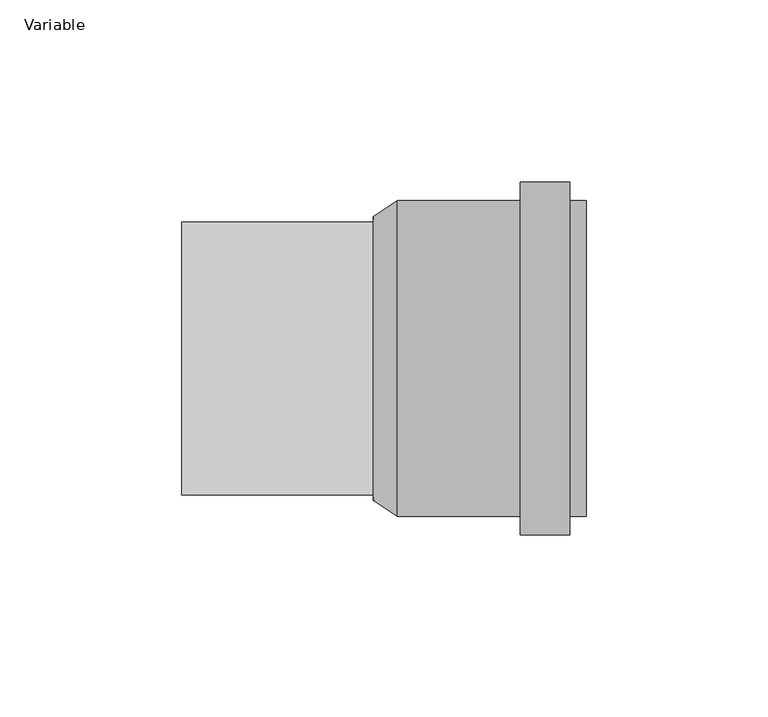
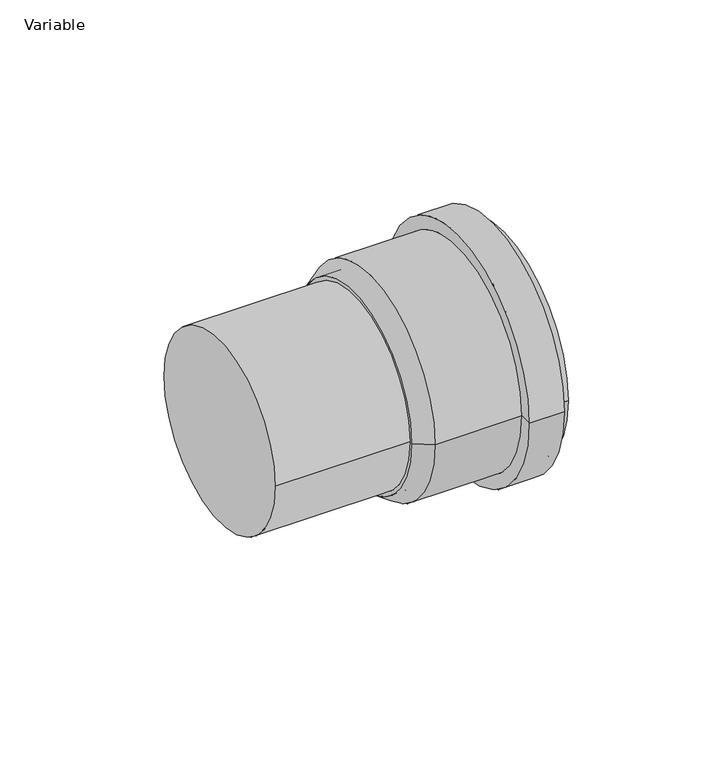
"""IFC4 building model written with IfcOpenShell, lengths in millimetres: pipe fitting geometry, AliaxisFR_Friaphon_AdaptorFriaphonPVC_FR : Variable."""

from ifc_helpers import new_model, si_unit, frame, origin, place, context, project, spatial, polyline, circle_curve, source, transform, mapped, element, save
from ifc_brep_helpers import plane_surface, cylinder_surface, revolved_surface, advanced_brep


def variable_db6501c9(model_context):
    return source(origin(), model_context, "Body", "AdvancedBrep", [
        advanced_brep(
        [(111.0, -43.4, 0.0), (111.0, 43.4, 0.0), (111.0, 39.0, 0.0), (111.0, -39.0, 0.0), (93.0, -48.5, 0.0), (93.0, 48.5, 0.0), (106.6, 48.5, 0.0), (106.6, -48.5, 0.0), (93.0, -43.4, 0.0), (93.0, 43.4, 0.0), (59.2, -43.4, 0.0), (59.2, 43.4, 0.0), (52.6, 39.0, 0.0), (52.6, -39.0, 0.0), (106.6, -43.4, 0.0), (106.6, 43.4, 0.0)],
        [
            (0, 1, circle_curve(frame((111.0, 0.0, 0.0), z_axis=(1.0, 0.0, 0.0), x_axis=(0.0, 1.0, 0.0)), 43.4)),
            (1, 2),
            (2, 3, circle_curve(frame((111.0, 0.0, 0.0), z_axis=(-1.0, 0.0, 0.0), x_axis=(0.0, 1.0, 0.0)), 39.0)),
            (3, 0),
            (1, 0, circle_curve(frame((111.0, 0.0, 0.0), z_axis=(1.0, 0.0, 0.0), x_axis=(0.0, 1.0, 0.0)), 43.4)),
            (3, 2, circle_curve(frame((111.0, 0.0, 0.0), z_axis=(-1.0, 0.0, 0.0), x_axis=(0.0, 1.0, 0.0)), 39.0)),
            (4, 5, circle_curve(frame((93.0, 0.0, 0.0), z_axis=(1.0, 0.0, 0.0), x_axis=(0.0, 1.0, 0.0)), 48.5)),
            (5, 6),
            (6, 7, circle_curve(frame((106.6, 0.0, 0.0), z_axis=(-1.0, 0.0, 0.0), x_axis=(0.0, 1.0, 0.0)), 48.5)),
            (7, 4),
            (5, 4, circle_curve(frame((93.0, 0.0, 0.0), z_axis=(1.0, 0.0, 0.0), x_axis=(0.0, 1.0, 0.0)), 48.5)),
            (7, 6, circle_curve(frame((106.6, 0.0, 0.0), z_axis=(-1.0, 0.0, 0.0), x_axis=(0.0, 1.0, 0.0)), 48.5)),
            (8, 9, circle_curve(frame((93.0, 0.0, 0.0), z_axis=(1.0, 0.0, 0.0), x_axis=(0.0, 1.0, 0.0)), 43.4)),
            (9, 5),
            (4, 8),
            (9, 8, circle_curve(frame((93.0, 0.0, 0.0), z_axis=(1.0, 0.0, 0.0), x_axis=(0.0, 1.0, 0.0)), 43.4)),
            (10, 11, circle_curve(frame((59.2, 0.0, 0.0), z_axis=(1.0, 0.0, 0.0), x_axis=(0.0, 1.0, 0.0)), 43.4)),
            (11, 9),
            (8, 10),
            (11, 10, circle_curve(frame((59.2, 0.0, 0.0), z_axis=(1.0, 0.0, 0.0), x_axis=(0.0, 1.0, 0.0)), 43.4)),
            (2, 12),
            (12, 13, circle_curve(frame((52.6, 0.0, 0.0), z_axis=(-1.0, 0.0, 0.0), x_axis=(0.0, 1.0, 0.0)), 39.0)),
            (13, 3),
            (13, 12, circle_curve(frame((52.6, 0.0, 0.0), z_axis=(-1.0, 0.0, 0.0), x_axis=(0.0, 1.0, 0.0)), 39.0)),
            (12, 11),
            (10, 13),
            (14, 15, circle_curve(frame((106.6, 0.0, 0.0), z_axis=(1.0, 0.0, 0.0), x_axis=(0.0, 1.0, 0.0)), 43.4)),
            (15, 1),
            (0, 14),
            (15, 14, circle_curve(frame((106.6, 0.0, 0.0), z_axis=(1.0, 0.0, 0.0), x_axis=(0.0, 1.0, 0.0)), 43.4)),
            (6, 15),
            (14, 7),
        ],
        [
            plane_surface(frame((111.0, 0.0, 0.0), z_axis=(1.0, 0.0, 0.0), x_axis=(0.0, 1.0, 0.0))),
            cylinder_surface(frame((52.6, 0.0, 0.0), z_axis=(-1.0, 0.0, 0.0), x_axis=(0.0, 1.0, 0.0)), 48.5),
            plane_surface(frame((93.0, 0.0, 0.0), z_axis=(-1.0, 0.0, 0.0), x_axis=(0.0, 1.0, 0.0))),
            cylinder_surface(frame((52.6, 0.0, 0.0), z_axis=(-1.0, 0.0, 0.0), x_axis=(0.0, 1.0, 0.0)), 43.4),
            revolved_surface(polyline([(52.6, 39.0, 0.0), (111.0, 39.0, 0.0)]), (52.6, 0.0, 0.0), (-1.0, 0.0, 0.0)),
            revolved_surface(polyline([(59.2, 43.4, 0.0), (52.6, 39.0, 0.0)]), (52.6, 0.0, 0.0), (-1.0, 0.0, 0.0)),
            plane_surface(frame((106.6, 0.0, 0.0), z_axis=(1.0, 0.0, 0.0), x_axis=(0.0, 1.0, 0.0))),
        ],
        [
            (0, [[1, 2, 3, 4]]),
            (0, [[5, -4, 6, -2]]),
            (1, [[7, 8, 9, 10]]),
            (1, [[11, -10, 12, -8]]),
            (2, [[13, 14, -7, 15]]),
            (2, [[16, -15, -11, -14]]),
            (3, [[17, 18, -13, 19]]),
            (3, [[20, -19, -16, -18]]),
            (4, [[-3, 21, 22, 23]]),
            (4, [[-6, -23, 24, -21]]),
            (5, [[-22, 25, -17, 26]]),
            (5, [[-24, -26, -20, -25]]),
            (3, [[27, 28, -1, 29]]),
            (3, [[30, -29, -5, -28]]),
            (6, [[-9, 31, -27, 32]]),
            (6, [[-12, -32, -30, -31]]),
        ],
    ),
        advanced_brep(
        [(57.0, -39.0, 0.0), (57.0, 39.0, 0.0), (52.6, -39.0, 0.0), (52.6, 39.0, 0.0), (52.6, -37.5, 0.0), (52.6, 37.5, 0.0), (0.0, -37.5, 0.0), (0.0, 37.5, 0.0)],
        [
            (0, 1, circle_curve(frame((57.0, 0.0, 0.0), z_axis=(1.0, 0.0, 0.0), x_axis=(0.0, 1.0, 0.0)), 39.0)),
            (1, 0, circle_curve(frame((57.0, 0.0, 0.0), z_axis=(1.0, 0.0, 0.0), x_axis=(0.0, 1.0, 0.0)), 39.0)),
            (2, 3, circle_curve(frame((52.6, 0.0, 0.0), z_axis=(-1.0, 0.0, 0.0), x_axis=(0.0, 1.0, 0.0)), 39.0)),
            (3, 2, circle_curve(frame((52.6, 0.0, 0.0), z_axis=(-1.0, 0.0, 0.0), x_axis=(0.0, 1.0, 0.0)), 39.0)),
            (4, 5, circle_curve(frame((52.6, 0.0, 0.0), z_axis=(1.0, 0.0, 0.0), x_axis=(0.0, 1.0, 0.0)), 37.5)),
            (5, 4, circle_curve(frame((52.6, 0.0, 0.0), z_axis=(1.0, 0.0, 0.0), x_axis=(0.0, 1.0, 0.0)), 37.5)),
            (0, 2),
            (3, 1),
            (6, 7, circle_curve(frame((0.0, 0.0, 0.0), z_axis=(-1.0, 0.0, 0.0), x_axis=(0.0, 1.0, 0.0)), 37.5)),
            (7, 6, circle_curve(frame((0.0, 0.0, 0.0), z_axis=(-1.0, 0.0, 0.0), x_axis=(0.0, 1.0, 0.0)), 37.5)),
            (7, 5),
            (4, 6),
        ],
        [
            plane_surface(frame((57.0, 39.0, 0.0), z_axis=(1.0, 0.0, 0.0), x_axis=(0.0, 0.0, 1.0))),
            plane_surface(frame((52.6, 39.0, 0.0), z_axis=(-1.0, 0.0, 0.0), x_axis=(0.0, 0.0, -1.0))),
            cylinder_surface(frame((52.6, 0.0, 0.0), z_axis=(1.0, 0.0, 0.0), x_axis=(0.0, 1.0, 0.0)), 39.0),
            plane_surface(frame((0.0, 37.5, 0.0), z_axis=(-1.0, 0.0, 0.0), x_axis=(0.0, 0.0, -1.0))),
            cylinder_surface(frame((0.0, 0.0, 0.0), z_axis=(1.0, 0.0, 0.0), x_axis=(0.0, 1.0, 0.0)), 37.5),
        ],
        [
            (0, [[1, 2]]),
            (1, [[3, 4], [5, 6]]),
            (2, [[-1, 7, -4, 8]]),
            (2, [[-2, -8, -3, -7]]),
            (3, [[9, 10]]),
            (4, [[-10, 11, -5, 12]]),
            (4, [[-9, -12, -6, -11]]),
        ],
    ),
    ])


if __name__ == "__main__":
    model = new_model("IFC4")
    model_context = context("Model", 3, world=origin())
    ifc_project = project(units=[si_unit("LENGTHUNIT", "METRE", prefix="MILLI")], contexts=[model_context])
    site = spatial("IfcSite", under=ifc_project)
    building = spatial("IfcBuilding", under=site)
    placement = place(None, origin())
    variable_shape = variable_db6501c9(model_context)
    element("IfcPipeFitting", 1, ObjectType="AliaxisFR_Friaphon_AdaptorFriaphonPVC_FR : Variable", at=placement, inside=building, context=model_context, shape_type="MappedRepresentation", body=[
        mapped(variable_shape, transform((0.0, 0.0, 0.0), x_axis=(1.0, 0.0, 0.0), y_axis=(0.0, 1.0, 0.0), z_axis=(0.0, 0.0, 1.0))),
    ])
    save(model, "model.ifc")
